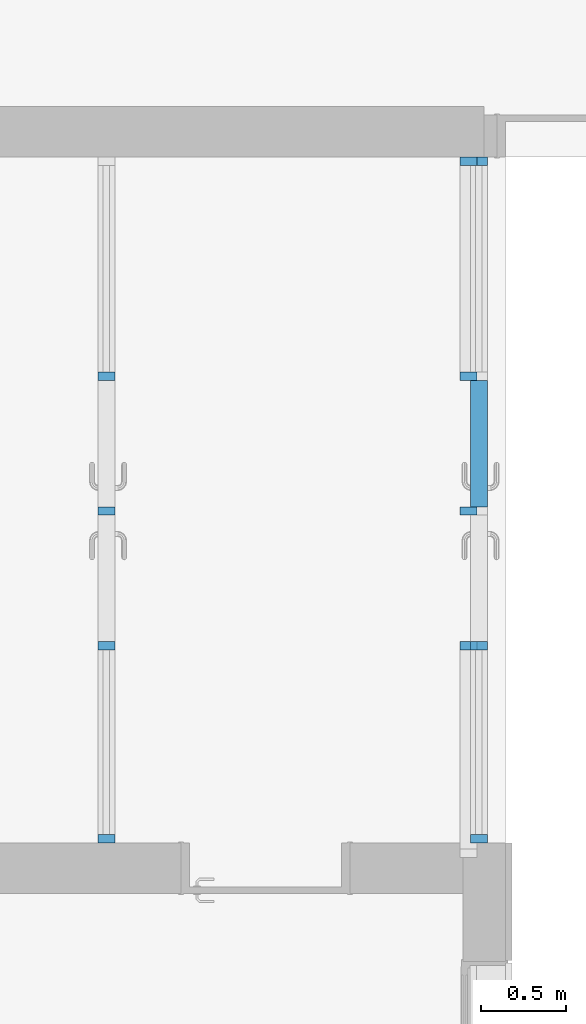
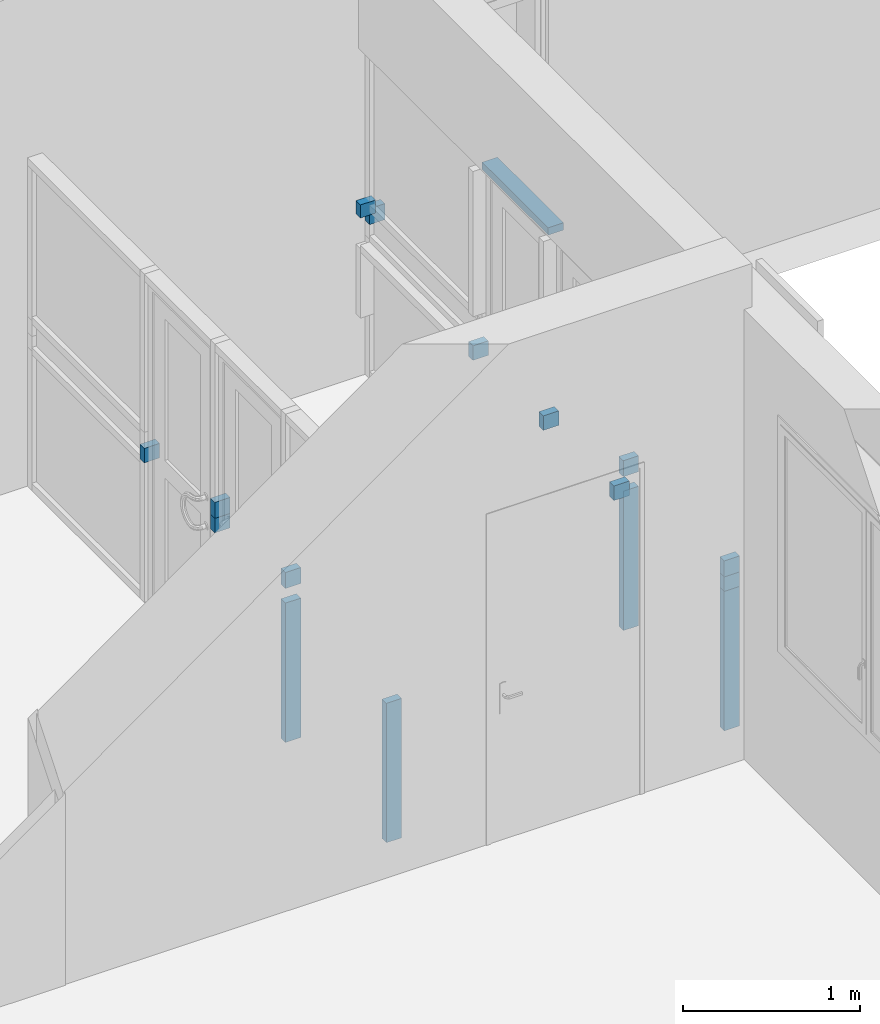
# One storey, part 3 of 9: 20 members, 2 elements without a shape of their own.
"""IFC2X3 building model written with IfcOpenShell, lengths in metres."""

from ifc_helpers import new_model, entity, si_unit, converted_unit, derived_unit, direction, frame, origin, origin_2d_with_axis, place, context, subcontext, project, spatial, rectangle, extrude, source, transform, mapped, material, type_object, type_shapes, element, aggregate, save


model = new_model("IFC2X3")

# Units and contexts
model_context = context("Model", 3, precision=1e-05, world=origin(), true_north=direction((6.12303176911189e-17, 1.0)))
body_context = subcontext(model_context, "Body", "Model", "MODEL_VIEW")
ifc_project = project(units=[si_unit("LENGTHUNIT", "METRE"), si_unit("AREAUNIT", "SQUARE_METRE"), si_unit("VOLUMEUNIT", "CUBIC_METRE"), converted_unit("PLANEANGLEUNIT", "DEGREE", entity("IfcRatioMeasure", 0.0174532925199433), si_unit("PLANEANGLEUNIT", "RADIAN"), dimensions=[0, 0, 0, 0, 0, 0, 0]), si_unit("MASSUNIT", "GRAM", prefix="KILO"), derived_unit("MASSDENSITYUNIT", [(si_unit("MASSUNIT", "GRAM", prefix="KILO"), 1), (si_unit("LENGTHUNIT", "METRE"), -3)]), derived_unit("MOMENTOFINERTIAUNIT", [(si_unit("LENGTHUNIT", "METRE"), 4)]), si_unit("TIMEUNIT", "SECOND"), si_unit("FREQUENCYUNIT", "HERTZ"), si_unit("THERMODYNAMICTEMPERATUREUNIT", "DEGREE_CELSIUS"), derived_unit("THERMALTRANSMITTANCEUNIT", [(si_unit("MASSUNIT", "GRAM", prefix="KILO"), 1), (si_unit("THERMODYNAMICTEMPERATUREUNIT", "KELVIN"), -1), (si_unit("TIMEUNIT", "SECOND"), -3)]), derived_unit("VOLUMETRICFLOWRATEUNIT", [(si_unit("LENGTHUNIT", "METRE"), 3), (si_unit("TIMEUNIT", "SECOND"), -1)]), si_unit("ELECTRICCURRENTUNIT", "AMPERE"), si_unit("ELECTRICVOLTAGEUNIT", "VOLT"), si_unit("POWERUNIT", "WATT"), si_unit("FORCEUNIT", "NEWTON", prefix="KILO"), si_unit("ILLUMINANCEUNIT", "LUX"), si_unit("LUMINOUSFLUXUNIT", "LUMEN"), si_unit("LUMINOUSINTENSITYUNIT", "CANDELA"), derived_unit("USERDEFINED", [(si_unit("MASSUNIT", "GRAM", prefix="KILO"), -1), (si_unit("LENGTHUNIT", "METRE"), -2), (si_unit("TIMEUNIT", "SECOND"), 3), (si_unit("LUMINOUSFLUXUNIT", "LUMEN"), 1)]), derived_unit("LINEARVELOCITYUNIT", [(si_unit("LENGTHUNIT", "METRE"), 1), (si_unit("TIMEUNIT", "SECOND"), -1)]), si_unit("PRESSUREUNIT", "PASCAL"), derived_unit("USERDEFINED", [(si_unit("LENGTHUNIT", "METRE"), -2), (si_unit("MASSUNIT", "GRAM", prefix="KILO"), 1), (si_unit("TIMEUNIT", "SECOND"), -2)]), derived_unit("LINEARFORCEUNIT", [(si_unit("MASSUNIT", "GRAM", prefix="KILO"), 1), (si_unit("LENGTHUNIT", "METRE"), 1), (si_unit("TIMEUNIT", "SECOND"), -2), (si_unit("LENGTHUNIT", "METRE"), -1)]), derived_unit("PLANARFORCEUNIT", [(si_unit("MASSUNIT", "GRAM", prefix="KILO"), 1), (si_unit("LENGTHUNIT", "METRE"), 1), (si_unit("TIMEUNIT", "SECOND"), -2), (si_unit("LENGTHUNIT", "METRE"), -2)])], contexts=[model_context])

# Site, building, storey
site_placement = place(None, origin())
site = spatial("IfcSite", under=ifc_project, at=site_placement, Name="Default", CompositionType="ELEMENT")
building_placement = place(site_placement, origin())
building = spatial("IfcBuilding", under=site, at=building_placement, CompositionType="ELEMENT")
storey_placement = place(building_placement, frame((0.0, 0.0, 0.253308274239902)))
storey = spatial("IfcBuildingStorey", under=building, at=storey_placement, Name="Niveau 00 - 01", CompositionType="ELEMENT", Elevation=0.253308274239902)

# Curtain wall, member
curtain_wall_type = type_object("IfcCurtainWallType", Name="Mur-rideau:SANS Calpinage", PredefinedType="NOTDEFINED")
curtain_wall_1_placement = place(storey_placement, frame((0.0, 0.0, -0.253308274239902)))
curtain_wall_1 = element("IfcCurtainWall", 1, at=curtain_wall_1_placement, inside=storey, type_object=curtain_wall_type, Name="Mur-rideau:SANS Calpinage", ObjectType="Mur-rideau:SANS Calpinage")
ifc_material = material(Name="Aluminium 2")
member_type_1 = type_object("IfcMemberType", Name="Meneau rectangulaire:50 x 100mm", PredefinedType="MULLION", material=ifc_material)
shared_shape_1 = source(origin(), body_context, "Body", "SweptSolid", [
    extrude(rectangle(XDim=0.1, YDim=0.05, at=origin_2d_with_axis()), frame((-0.025, 0.0, -0.96), z_axis=(0.0, 0.0, 1.0), x_axis=(0.0, -1.0, 0.0)), (0.0, 0.0, 1.0), 0.96),
])
type_shapes(member_type_1, [shared_shape_1])
placement_1 = place(building_placement, origin())
member_1_placement = place(placement_1, frame((-28.9800011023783, -38.5590543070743, 0.253308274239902), z_axis=(0.0, 0.0, -1.0), x_axis=(0.0, -1.0, 0.0)))
member_1 = element("IfcMember", 2, at=member_1_placement, type_object=member_type_1, material=ifc_material, Name="Meneau rectangulaire:50 x 100mm", ObjectType="Meneau rectangulaire:50 x 100mm", context=body_context, shape_type="MappedRepresentation", body=[
    mapped(shared_shape_1, transform((0.0, 0.0, 0.0), scale=1.0)),
])

curtain_wall_2_placement = place(storey_placement, frame((0.0, 0.0, -0.253308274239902)))
curtain_wall_2 = element("IfcCurtainWall", 3, at=curtain_wall_2_placement, inside=storey, type_object=curtain_wall_type, Name="Mur-rideau:SANS Calpinage", ObjectType="Mur-rideau:SANS Calpinage")
member_2_placement = place(placement_1, frame((-31.1800011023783, -38.5590543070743, 0.253308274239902), z_axis=(0.0, 0.0, -1.0), x_axis=(0.0, -1.0, 0.0)))
member_2 = element("IfcMember", 4, at=member_2_placement, type_object=member_type_1, material=ifc_material, Name="Meneau rectangulaire:50 x 100mm", ObjectType="Meneau rectangulaire:50 x 100mm", context=body_context, shape_type="MappedRepresentation", body=[
    mapped(shared_shape_1, transform((0.0, 0.0, 0.0), scale=1.0)),
])

# Member
member_type_2 = type_object("IfcMemberType", Name="Meneau rectangulaire:50 x 100mm", PredefinedType="MULLION", material=ifc_material)
shared_shape_2 = source(origin(), body_context, "Body", "SweptSolid", [
    extrude(rectangle(XDim=0.1, YDim=0.05, at=origin_2d_with_axis()), frame((-0.025, 0.0, -0.745000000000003), z_axis=(0.0, 0.0, 1.0), x_axis=(0.0, -1.0, 0.0)), (0.0, 0.0, 1.0), 0.745000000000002),
])
type_shapes(member_type_2, [shared_shape_2])
placement_2 = place(building_placement, frame((0.0, 0.0, 0.893308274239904)))
member_3_placement = place(placement_2, frame((-28.9800011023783, -36.5740543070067, 1.62050204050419), z_axis=(0.0, -1.0, 0.0), x_axis=(0.0, 0.0, 1.0)))
member_3 = element("IfcMember", 5, at=member_3_placement, type_object=member_type_2, material=ifc_material, Name="Meneau rectangulaire:50 x 100mm", ObjectType="Meneau rectangulaire:50 x 100mm", context=body_context, shape_type="MappedRepresentation", body=[
    mapped(shared_shape_2, transform((0.0, 0.0, 0.0), scale=1.0)),
])

member_type_3 = type_object("IfcMemberType", Name="Meneau rectangulaire:50 x 100mm", PredefinedType="MULLION", material=ifc_material)
shared_shape_3 = source(origin(), body_context, "Body", "SweptSolid", [
    extrude(rectangle(XDim=0.1, YDim=0.05, at=origin_2d_with_axis()), frame((-0.025, 0.0, -0.110137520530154), z_axis=(0.0, 0.0, 1.0), x_axis=(0.0, -1.0, 0.0)), (0.0, 0.0, 1.0), 0.110137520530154),
])
type_shapes(member_type_3, [shared_shape_3])
member_4_placement = place(placement_2, frame((-28.9800011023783, -38.5590543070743, 0.419999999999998), z_axis=(0.0, 0.0, -1.0), x_axis=(0.0, -1.0, 0.0)))
member_4 = element("IfcMember", 6, at=member_4_placement, type_object=member_type_3, material=ifc_material, Name="Meneau rectangulaire:50 x 100mm", ObjectType="Meneau rectangulaire:50 x 100mm", context=body_context, shape_type="MappedRepresentation", body=[
    mapped(shared_shape_3, transform((0.0, 0.0, 0.0), scale=1.0)),
])

member_type_4 = type_object("IfcMemberType", Name="Meneau rectangulaire:50 x 100mm", PredefinedType="MULLION", material=ifc_material)
shared_shape_4 = source(origin(), body_context, "Body", "SweptSolid", [
    extrude(rectangle(XDim=0.1, YDim=0.05, at=origin_2d_with_axis()), frame((0.0, 0.0, -0.96), z_axis=(0.0, 0.0, 1.0), x_axis=(0.0, -1.0, 0.0)), (0.0, 0.0, 1.0), 0.96),
])
type_shapes(member_type_4, [shared_shape_4])
member_5_placement = place(placement_1, frame((-28.9800011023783, -37.3956844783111, 0.253308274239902), z_axis=(0.0, 0.0, -1.0), x_axis=(0.0, -1.0, 0.0)))
member_5 = element("IfcMember", 7, at=member_5_placement, type_object=member_type_4, material=ifc_material, Name="Meneau rectangulaire:50 x 100mm", ObjectType="Meneau rectangulaire:50 x 100mm", context=body_context, shape_type="MappedRepresentation", body=[
    mapped(shared_shape_4, transform((0.0, 0.0, 0.0), scale=1.0)),
])

member_6_placement = place(placement_1, frame((-31.1800011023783, -37.3956844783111, 0.253308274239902), z_axis=(0.0, 0.0, -1.0), x_axis=(0.0, -1.0, 0.0)))
member_6 = element("IfcMember", 8, at=member_6_placement, type_object=member_type_4, material=ifc_material, Name="Meneau rectangulaire:50 x 100mm", ObjectType="Meneau rectangulaire:50 x 100mm", context=body_context, shape_type="MappedRepresentation", body=[
    mapped(shared_shape_4, transform((0.0, 0.0, 0.0), scale=1.0)),
])

member_type_5 = type_object("IfcMemberType", Name="Meneau rectangulaire:50 x 100mm", PredefinedType="MULLION", material=ifc_material)
shared_shape_5 = source(origin(), body_context, "Body", "SweptSolid", [
    extrude(rectangle(XDim=0.1, YDim=0.05, at=origin_2d_with_axis()), frame((0.0, 0.0, -0.110137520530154), z_axis=(0.0, 0.0, 1.0), x_axis=(0.0, -1.0, 0.0)), (0.0, 0.0, 1.0), 0.110137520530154),
])
type_shapes(member_type_5, [shared_shape_5])
member_7_placement = place(placement_1, frame((-31.1800011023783, -36.5990543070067, 1.3133082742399), z_axis=(0.0, 0.0, -1.0), x_axis=(0.0, -1.0, 0.0)))
member_7 = element("IfcMember", 9, at=member_7_placement, type_object=member_type_5, material=ifc_material, Name="Meneau rectangulaire:50 x 100mm", ObjectType="Meneau rectangulaire:50 x 100mm", context=body_context, shape_type="MappedRepresentation", body=[
    mapped(shared_shape_5, transform((0.0, 0.0, 0.0), scale=1.0)),
])

member_type_6 = type_object("IfcMemberType", Name="Meneau rectangulaire:50 x 100mm", PredefinedType="MULLION", material=ifc_material)
shared_shape_6 = source(origin(), body_context, "Body", "SweptSolid", [
    extrude(rectangle(XDim=0.1, YDim=0.05, at=origin_2d_with_axis()), frame((0.0, 0.0, -0.110137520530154), z_axis=(0.0, 0.0, 1.0), x_axis=(0.0, -1.0, 0.0)), (0.0, 0.0, 1.0), 0.110137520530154),
])
type_shapes(member_type_6, [shared_shape_6])
member_8_placement = place(placement_1, frame((-28.9800011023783, -37.3956844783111, 1.3133082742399), z_axis=(0.0, 0.0, -1.0), x_axis=(0.0, -1.0, 0.0)))
member_8 = element("IfcMember", 10, at=member_8_placement, type_object=member_type_6, material=ifc_material, Name="Meneau rectangulaire:50 x 100mm", ObjectType="Meneau rectangulaire:50 x 100mm", context=body_context, shape_type="MappedRepresentation", body=[
    mapped(shared_shape_6, transform((0.0, 0.0, 0.0), scale=1.0)),
])

member_9_placement = place(placement_1, frame((-31.1800011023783, -37.3956844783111, 1.3133082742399), z_axis=(0.0, 0.0, -1.0), x_axis=(0.0, -1.0, 0.0)))
member_9 = element("IfcMember", 11, at=member_9_placement, type_object=member_type_6, material=ifc_material, Name="Meneau rectangulaire:50 x 100mm", ObjectType="Meneau rectangulaire:50 x 100mm", context=body_context, shape_type="MappedRepresentation", body=[
    mapped(shared_shape_6, transform((0.0, 0.0, 0.0), scale=1.0)),
])

member_type_7 = type_object("IfcMemberType", Name="Meneau rectangulaire:50 x 100mm", PredefinedType="MULLION", material=ifc_material)
shared_shape_7 = source(origin(), body_context, "Body", "SweptSolid", [
    extrude(rectangle(XDim=0.1, YDim=0.05, at=origin_2d_with_axis()), frame((0.0, 0.0, -0.1), z_axis=(0.0, 0.0, 1.0), x_axis=(0.0, -1.0, 0.0)), (0.0, 0.0, 1.0), 0.1),
])
type_shapes(member_type_7, [shared_shape_7])
member_10_placement = place(placement_1, frame((-29.0400011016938, -35.8040543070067, 1.17), z_axis=(0.0, 0.0, -1.0), x_axis=(0.0, -1.0, 0.0)))
member_10 = element("IfcMember", 12, at=member_10_placement, type_object=member_type_7, material=ifc_material, Name="Meneau rectangulaire:50 x 100mm", ObjectType="Meneau rectangulaire:50 x 100mm", context=body_context, shape_type="MappedRepresentation", body=[
    mapped(shared_shape_7, transform((0.0, 0.0, 0.0), scale=1.0)),
])

member_11_placement = place(placement_1, frame((-31.1800011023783, -35.8040543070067, 1.2133082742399), z_axis=(0.0, 0.0, -1.0), x_axis=(0.0, -1.0, 0.0)))
member_11 = element("IfcMember", 13, at=member_11_placement, type_object=member_type_7, material=ifc_material, Name="Meneau rectangulaire:50 x 100mm", ObjectType="Meneau rectangulaire:50 x 100mm", context=body_context, shape_type="MappedRepresentation", body=[
    mapped(shared_shape_7, transform((0.0, 0.0, 0.0), scale=1.0)),
])

member_type_8 = type_object("IfcMemberType", Name="Meneau rectangulaire:50 x 100mm", PredefinedType="MULLION", material=ifc_material)
shared_shape_8 = source(origin(), body_context, "Body", "SweptSolid", [
    extrude(rectangle(XDim=0.1, YDim=0.05, at=origin_2d_with_axis()), frame((0.0, 0.0, -0.1), z_axis=(0.0, 0.0, 1.0), x_axis=(0.0, -1.0, 0.0)), (0.0, 0.0, 1.0), 0.1),
])
type_shapes(member_type_8, [shared_shape_8])
member_12_placement = place(placement_1, frame((-29.0400011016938, -36.5990543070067, 1.17), z_axis=(0.0, 0.0, -1.0), x_axis=(0.0, -1.0, 0.0)))
member_12 = element("IfcMember", 14, at=member_12_placement, type_object=member_type_8, material=ifc_material, Name="Meneau rectangulaire:50 x 100mm", ObjectType="Meneau rectangulaire:50 x 100mm", context=body_context, shape_type="MappedRepresentation", body=[
    mapped(shared_shape_8, transform((0.0, 0.0, 0.0), scale=1.0)),
])

member_13_placement = place(placement_1, frame((-29.0400011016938, -37.3956844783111, 1.17), z_axis=(0.0, 0.0, -1.0), x_axis=(0.0, -1.0, 0.0)))
member_13 = element("IfcMember", 15, at=member_13_placement, type_object=member_type_8, material=ifc_material, Name="Meneau rectangulaire:50 x 100mm", ObjectType="Meneau rectangulaire:50 x 100mm", context=body_context, shape_type="MappedRepresentation", body=[
    mapped(shared_shape_8, transform((0.0, 0.0, 0.0), scale=1.0)),
])

member_14_placement = place(placement_1, frame((-29.0400011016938, -36.5990543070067, 1.17), z_axis=(0.0, 0.0, -1.0), x_axis=(0.0, -1.0, 0.0)))
member_14 = element("IfcMember", 16, at=member_14_placement, type_object=member_type_8, material=ifc_material, Name="Meneau rectangulaire:50 x 100mm", ObjectType="Meneau rectangulaire:50 x 100mm", context=body_context, shape_type="MappedRepresentation", body=[
    mapped(shared_shape_8, transform((0.0, 0.0, 0.0), scale=1.0)),
])

member_15_placement = place(placement_1, frame((-29.0400011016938, -37.3956844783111, 1.17), z_axis=(0.0, 0.0, -1.0), x_axis=(0.0, -1.0, 0.0)))
member_15 = element("IfcMember", 17, at=member_15_placement, type_object=member_type_8, material=ifc_material, Name="Meneau rectangulaire:50 x 100mm", ObjectType="Meneau rectangulaire:50 x 100mm", context=body_context, shape_type="MappedRepresentation", body=[
    mapped(shared_shape_8, transform((0.0, 0.0, 0.0), scale=1.0)),
])

member_16_placement = place(placement_1, frame((-31.1800011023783, -36.5990543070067, 1.2133082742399), z_axis=(0.0, 0.0, -1.0), x_axis=(0.0, -1.0, 0.0)))
member_16 = element("IfcMember", 18, at=member_16_placement, type_object=member_type_8, material=ifc_material, Name="Meneau rectangulaire:50 x 100mm", ObjectType="Meneau rectangulaire:50 x 100mm", context=body_context, shape_type="MappedRepresentation", body=[
    mapped(shared_shape_8, transform((0.0, 0.0, 0.0), scale=1.0)),
])

member_type_9 = type_object("IfcMemberType", Name="Meneau rectangulaire:50 x 100mm", PredefinedType="MULLION", material=ifc_material)
shared_shape_9 = source(origin(), body_context, "Body", "SweptSolid", [
    extrude(rectangle(XDim=0.1, YDim=0.05, at=origin_2d_with_axis()), frame((-0.025, 0.0, -0.110137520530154), z_axis=(0.0, 0.0, 1.0), x_axis=(0.0, -1.0, 0.0)), (0.0, 0.0, 1.0), 0.110137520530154),
])
type_shapes(member_type_9, [shared_shape_9])
member_17_placement = place(placement_1, frame((-28.9800011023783, -34.5090543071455, 1.42344579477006), z_axis=(0.0, 0.0, 1.0), x_axis=(0.0, 1.0, 0.0)))
member_17 = element("IfcMember", 19, at=member_17_placement, type_object=member_type_9, material=ifc_material, Name="Meneau rectangulaire:50 x 100mm", ObjectType="Meneau rectangulaire:50 x 100mm", context=body_context, shape_type="MappedRepresentation", body=[
    mapped(shared_shape_9, transform((0.0, 0.0, 0.0), scale=1.0)),
])

member_type_10 = type_object("IfcMemberType", Name="Meneau rectangulaire:50 x 100mm", PredefinedType="MULLION", material=ifc_material)
shared_shape_10 = source(origin(), body_context, "Body", "SweptSolid", [
    extrude(rectangle(XDim=0.1, YDim=0.05, at=origin_2d_with_axis()), frame((-0.025, 0.0, -0.0898624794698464), z_axis=(0.0, 0.0, 1.0), x_axis=(0.0, -1.0, 0.0)), (0.0, 0.0, 1.0), 0.0898624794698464),
])
type_shapes(member_type_10, [shared_shape_10])
member_18_placement = place(placement_1, frame((-29.0400011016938, -34.5090543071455, 1.47), z_axis=(0.0, 0.0, 1.0), x_axis=(0.0, 1.0, 0.0)))
member_18 = element("IfcMember", 20, at=member_18_placement, type_object=member_type_10, material=ifc_material, Name="Meneau rectangulaire:50 x 100mm", ObjectType="Meneau rectangulaire:50 x 100mm", context=body_context, shape_type="MappedRepresentation", body=[
    mapped(shared_shape_10, transform((0.0, 0.0, 0.0), scale=1.0)),
])

member_19_placement = place(placement_1, frame((-29.0400011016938, -34.5090543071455, 1.47), z_axis=(0.0, 0.0, 1.0), x_axis=(0.0, 1.0, 0.0)))
member_19 = element("IfcMember", 21, at=member_19_placement, type_object=member_type_10, material=ifc_material, Name="Meneau rectangulaire:50 x 100mm", ObjectType="Meneau rectangulaire:50 x 100mm", context=body_context, shape_type="MappedRepresentation", body=[
    mapped(shared_shape_10, transform((0.0, 0.0, 0.0), scale=1.0)),
])

aggregate(curtain_wall_2, [member_2, member_6, member_7, member_9, member_10, member_14, member_15, member_19, member_11, member_16])

member_type_11 = type_object("IfcMemberType", Name="Meneau rectangulaire:50 x 100mm", PredefinedType="MULLION", material=ifc_material)
shared_shape_11 = source(origin(), body_context, "Body", "SweptSolid", [
    extrude(rectangle(XDim=0.1, YDim=0.05, at=origin_2d_with_axis()), frame((-0.025, 0.0, -0.1), z_axis=(0.0, 0.0, 1.0), x_axis=(0.0, -1.0, 0.0)), (0.0, 0.0, 1.0), 0.1),
])
type_shapes(member_type_11, [shared_shape_11])
member_20_placement = place(placement_1, frame((-28.9800011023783, -38.5590543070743, 1.2133082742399), z_axis=(0.0, 0.0, -1.0), x_axis=(0.0, -1.0, 0.0)))
member_20 = element("IfcMember", 22, at=member_20_placement, type_object=member_type_11, material=ifc_material, Name="Meneau rectangulaire:50 x 100mm", ObjectType="Meneau rectangulaire:50 x 100mm", context=body_context, shape_type="MappedRepresentation", body=[
    mapped(shared_shape_11, transform((0.0, 0.0, 0.0), scale=1.0)),
])

aggregate(curtain_wall_1, [member_1, member_3, member_4, member_5, member_8, member_12, member_13, member_17, member_18, member_20])

save(model, "model.ifc")
